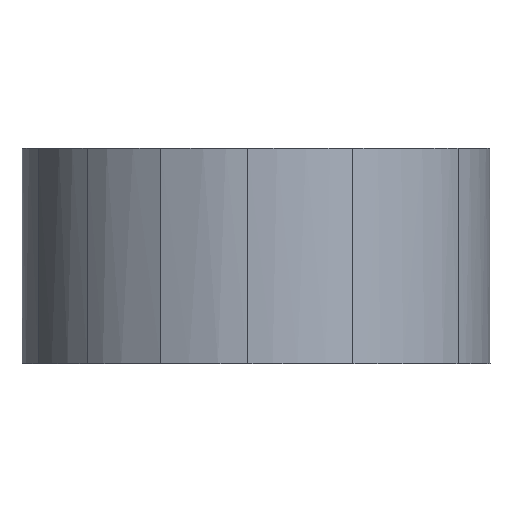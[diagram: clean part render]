
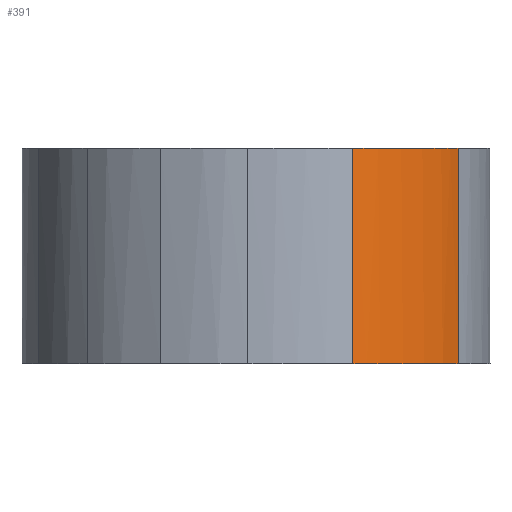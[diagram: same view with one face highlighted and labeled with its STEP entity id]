
A CAD part, left-side view. The second image highlights one B-rep face of the part: STEP entity #391.
In plain terms, the highlighted free-form (B-spline) face has degree [3, 1] with [5, 2] control points.
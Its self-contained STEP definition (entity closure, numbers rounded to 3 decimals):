
#33=FACE_OUTER_BOUND('',#54,.T.);
#54=EDGE_LOOP('',(#284,#285,#286,#287));
#77=LINE('',#669,#102);
#78=LINE('',#692,#103);
#102=VECTOR('',#442,10.);
#103=VECTOR('',#443,10.);
#135=B_SPLINE_CURVE_WITH_KNOTS('',3,(#681,#682,#683,#684,#685),
 .UNSPECIFIED.,.F.,.F.,(4,1,4),(0.,0.101,0.201),
 .UNSPECIFIED.);
#136=B_SPLINE_CURVE_WITH_KNOTS('',3,(#687,#688,#689,#690,#691),
 .UNSPECIFIED.,.F.,.F.,(4,1,4),(-0.201,-0.101,0.),
 .UNSPECIFIED.);
#169=VERTEX_POINT('',#653);
#170=VERTEX_POINT('',#661);
#171=VERTEX_POINT('',#680);
#172=VERTEX_POINT('',#686);
#217=EDGE_CURVE('',#169,#170,#77,.T.);
#218=EDGE_CURVE('',#169,#171,#135,.T.);
#219=EDGE_CURVE('',#172,#170,#136,.T.);
#220=EDGE_CURVE('',#171,#172,#78,.T.);
#284=ORIENTED_EDGE('',*,*,#218,.F.);
#285=ORIENTED_EDGE('',*,*,#217,.T.);
#286=ORIENTED_EDGE('',*,*,#219,.F.);
#287=ORIENTED_EDGE('',*,*,#220,.F.);
#375=B_SPLINE_SURFACE_WITH_KNOTS('',3,1,((#670,#671),(#672,#673),(#674,
#675),(#676,#677),(#678,#679)),.UNSPECIFIED.,.F.,.F.,.F.,(4,1,4),(2,2),
(-0.201,-0.101,0.),(0.,0.3),.UNSPECIFIED.);
#391=ADVANCED_FACE('',(#33),#375,.T.);
#442=DIRECTION('',(0.,0.,1.));
#443=DIRECTION('',(0.,0.,1.));
#653=CARTESIAN_POINT('',(16.368,-1.312,0.));
#661=CARTESIAN_POINT('',(16.368,-1.312,3.));
#669=CARTESIAN_POINT('',(16.368,-1.312,0.));
#670=CARTESIAN_POINT('Ctrl Pts',(15.039,0.152,0.));
#671=CARTESIAN_POINT('Ctrl Pts',(15.039,0.152,3.));
#672=CARTESIAN_POINT('Ctrl Pts',(15.166,-0.159,0.));
#673=CARTESIAN_POINT('Ctrl Pts',(15.166,-0.159,3.));
#674=CARTESIAN_POINT('Ctrl Pts',(15.561,-0.71,0.));
#675=CARTESIAN_POINT('Ctrl Pts',(15.561,-0.71,3.));
#676=CARTESIAN_POINT('Ctrl Pts',(16.071,-1.155,0.));
#677=CARTESIAN_POINT('Ctrl Pts',(16.071,-1.155,3.));
#678=CARTESIAN_POINT('Ctrl Pts',(16.368,-1.312,0.));
#679=CARTESIAN_POINT('Ctrl Pts',(16.368,-1.312,3.));
#680=CARTESIAN_POINT('',(15.039,0.152,0.));
#681=CARTESIAN_POINT('Ctrl Pts',(16.368,-1.312,0.));
#682=CARTESIAN_POINT('Ctrl Pts',(16.071,-1.155,0.));
#683=CARTESIAN_POINT('Ctrl Pts',(15.561,-0.71,0.));
#684=CARTESIAN_POINT('Ctrl Pts',(15.166,-0.159,0.));
#685=CARTESIAN_POINT('Ctrl Pts',(15.039,0.152,0.));
#686=CARTESIAN_POINT('',(15.039,0.152,3.));
#687=CARTESIAN_POINT('Ctrl Pts',(15.039,0.152,3.));
#688=CARTESIAN_POINT('Ctrl Pts',(15.166,-0.159,3.));
#689=CARTESIAN_POINT('Ctrl Pts',(15.561,-0.71,3.));
#690=CARTESIAN_POINT('Ctrl Pts',(16.071,-1.155,3.));
#691=CARTESIAN_POINT('Ctrl Pts',(16.368,-1.312,3.));
#692=CARTESIAN_POINT('',(15.039,0.152,0.));
